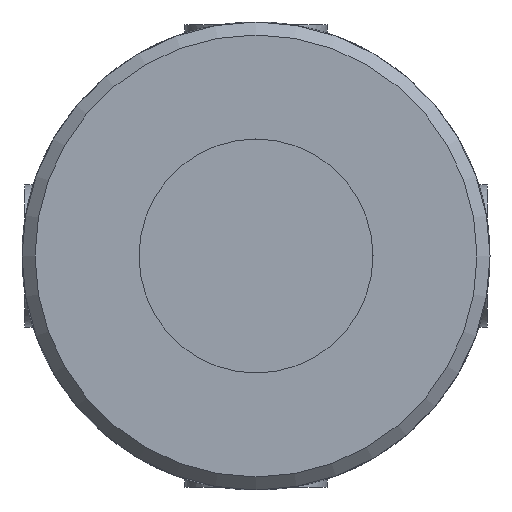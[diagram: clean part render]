
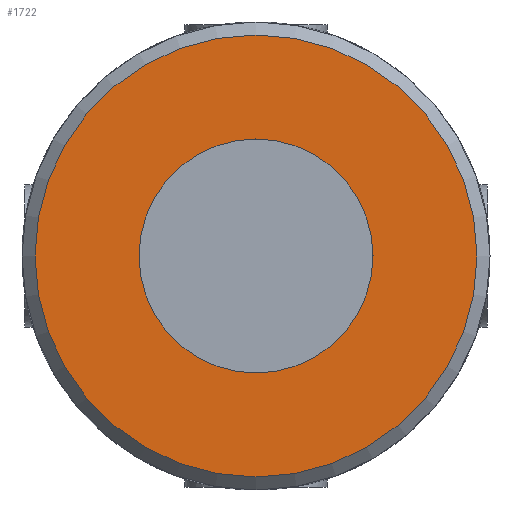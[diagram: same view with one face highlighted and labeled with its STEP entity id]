
A CAD part, front view. The second image highlights one B-rep face of the part: STEP entity #1722.
In plain terms, the highlighted planar face has unit normal (0, -1, 0).
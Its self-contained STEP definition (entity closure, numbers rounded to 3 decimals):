
#200=PLANE('',#1903);
#372=FACE_BOUND('',#605,.T.);
#460=FACE_OUTER_BOUND('',#604,.T.);
#604=EDGE_LOOP('',(#1503));
#605=EDGE_LOOP('',(#1504));
#704=CIRCLE('',#1898,9.);
#706=CIRCLE('',#1901,17.);
#850=VERTEX_POINT('',#3335);
#852=VERTEX_POINT('',#3340);
#1069=EDGE_CURVE('',#850,#850,#704,.T.);
#1071=EDGE_CURVE('',#852,#852,#706,.T.);
#1503=ORIENTED_EDGE('',*,*,#1071,.F.);
#1504=ORIENTED_EDGE('',*,*,#1069,.T.);
#1722=ADVANCED_FACE('',(#460,#372),#200,.F.);
#1898=AXIS2_PLACEMENT_3D('',#3336,#2284,#2285);
#1901=AXIS2_PLACEMENT_3D('',#3341,#2290,#2291);
#1903=AXIS2_PLACEMENT_3D('',#3565,#2298,#2299);
#2284=DIRECTION('center_axis',(0.,1.,0.));
#2285=DIRECTION('ref_axis',(-1.,0.,0.));
#2290=DIRECTION('center_axis',(0.,1.,0.));
#2291=DIRECTION('ref_axis',(1.,0.,0.));
#2298=DIRECTION('center_axis',(0.,1.,0.));
#2299=DIRECTION('ref_axis',(0.,0.,1.));
#3335=CARTESIAN_POINT('',(9.,-45.5,0.));
#3336=CARTESIAN_POINT('Origin',(0.,-45.5,0.));
#3340=CARTESIAN_POINT('',(-17.,-45.5,0.));
#3341=CARTESIAN_POINT('Origin',(0.,-45.5,0.));
#3565=CARTESIAN_POINT('Origin',(0.,-45.5,0.));
